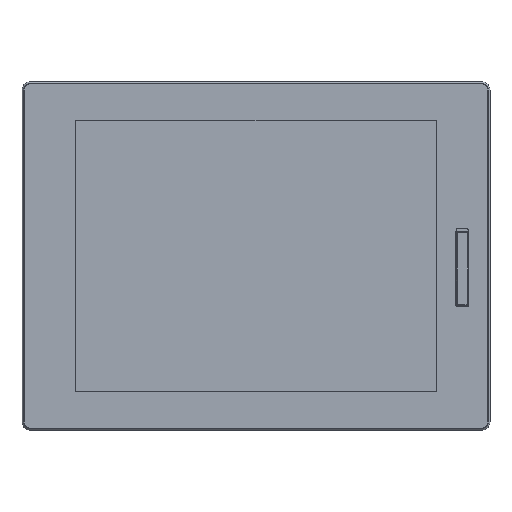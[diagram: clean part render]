
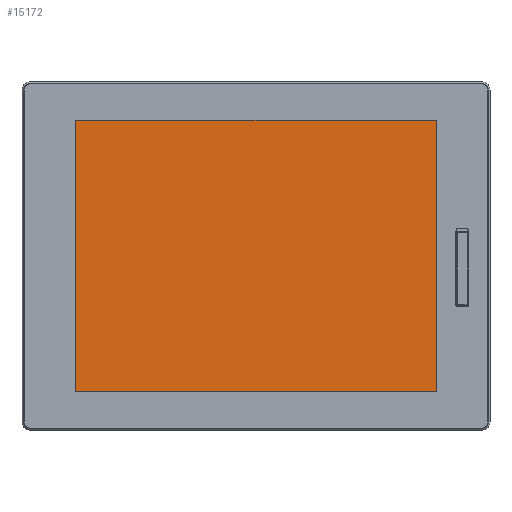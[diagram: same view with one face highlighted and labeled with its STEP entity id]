
A CAD part, top view. The second image highlights one B-rep face of the part: STEP entity #15172.
In plain terms, the highlighted planar face has unit normal (0, 0, 1).
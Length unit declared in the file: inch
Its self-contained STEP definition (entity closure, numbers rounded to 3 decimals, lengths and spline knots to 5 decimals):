
#5552=DIRECTION('',(1.,0.,0.));
#5553=VECTOR('',#5552,11.98819);
#5554=CARTESIAN_POINT('',(1.82087,10.36417,2.64677));
#5555=LINE('',#5554,#5553);
#5556=CARTESIAN_POINT('',(13.80906,10.3248,2.64677));
#5557=DIRECTION('',(0.,0.,-1.));
#5558=DIRECTION('',(0.,1.,0.));
#5559=AXIS2_PLACEMENT_3D('',#5556,#5557,#5558);
#5561=DIRECTION('',(0.,-1.,0.));
#5562=VECTOR('',#5561,8.99606);
#5563=CARTESIAN_POINT('',(13.84843,10.3248,2.64677));
#5564=LINE('',#5563,#5562);
#5565=CARTESIAN_POINT('',(13.80906,1.32874,2.64677));
#5566=DIRECTION('',(0.,0.,-1.));
#5567=DIRECTION('',(1.,0.,0.));
#5568=AXIS2_PLACEMENT_3D('',#5565,#5566,#5567);
#5570=DIRECTION('',(-1.,0.,0.));
#5571=VECTOR('',#5570,11.98819);
#5572=CARTESIAN_POINT('',(13.80906,1.28937,2.64677));
#5573=LINE('',#5572,#5571);
#5574=CARTESIAN_POINT('',(1.82087,1.32874,2.64677));
#5575=DIRECTION('',(0.,0.,-1.));
#5576=DIRECTION('',(0.,-1.,0.));
#5577=AXIS2_PLACEMENT_3D('',#5574,#5575,#5576);
#5579=DIRECTION('',(0.,1.,0.));
#5580=VECTOR('',#5579,8.99606);
#5581=CARTESIAN_POINT('',(1.7815,1.32874,2.64677));
#5582=LINE('',#5581,#5580);
#5583=CARTESIAN_POINT('',(1.82087,10.3248,2.64677));
#5584=DIRECTION('',(0.,0.,-1.));
#5585=DIRECTION('',(-1.,0.,0.));
#5586=AXIS2_PLACEMENT_3D('',#5583,#5584,#5585);
#7267=CARTESIAN_POINT('',(13.80906,10.36417,2.64677));
#7268=VERTEX_POINT('',#7267);
#7269=CARTESIAN_POINT('',(1.82087,10.36417,2.64677));
#7270=VERTEX_POINT('',#7269);
#7271=CARTESIAN_POINT('',(13.84843,10.3248,2.64677));
#7272=VERTEX_POINT('',#7271);
#7273=CARTESIAN_POINT('',(13.84843,1.32874,2.64677));
#7274=VERTEX_POINT('',#7273);
#7275=CARTESIAN_POINT('',(13.80906,1.28937,2.64677));
#7276=VERTEX_POINT('',#7275);
#7277=CARTESIAN_POINT('',(1.82087,1.28937,2.64677));
#7278=VERTEX_POINT('',#7277);
#7279=CARTESIAN_POINT('',(1.7815,1.32874,2.64677));
#7280=VERTEX_POINT('',#7279);
#7281=CARTESIAN_POINT('',(1.7815,10.3248,2.64677));
#7282=VERTEX_POINT('',#7281);
#15157=CARTESIAN_POINT('',(7.81496,5.82677,2.64677));
#15158=DIRECTION('',(0.,0.,1.));
#15159=DIRECTION('',(1.,0.,0.));
#15160=AXIS2_PLACEMENT_3D('',#15157,#15158,#15159);
#15161=PLANE('',#15160);
#15162=ORIENTED_EDGE('',*,*,#15053,.T.);
#15163=ORIENTED_EDGE('',*,*,#15068,.T.);
#15164=ORIENTED_EDGE('',*,*,#15082,.T.);
#15165=ORIENTED_EDGE('',*,*,#15096,.T.);
#15166=ORIENTED_EDGE('',*,*,#15110,.T.);
#15167=ORIENTED_EDGE('',*,*,#15124,.T.);
#15168=ORIENTED_EDGE('',*,*,#15138,.T.);
#15169=ORIENTED_EDGE('',*,*,#15151,.T.);
#15170=EDGE_LOOP('',(#15162,#15163,#15164,#15165,#15166,#15167,#15168,#15169));
#15171=FACE_OUTER_BOUND('',#15170,.F.);
#15172=ADVANCED_FACE('',(#15171),#15161,.T.);
#5560=CIRCLE('',#5559,0.03937);
#5569=CIRCLE('',#5568,0.03937);
#5578=CIRCLE('',#5577,0.03937);
#5587=CIRCLE('',#5586,0.03937);
#15053=EDGE_CURVE('',#7270,#7268,#5555,.T.);
#15068=EDGE_CURVE('',#7268,#7272,#5560,.T.);
#15082=EDGE_CURVE('',#7272,#7274,#5564,.T.);
#15096=EDGE_CURVE('',#7274,#7276,#5569,.T.);
#15110=EDGE_CURVE('',#7276,#7278,#5573,.T.);
#15124=EDGE_CURVE('',#7278,#7280,#5578,.T.);
#15138=EDGE_CURVE('',#7280,#7282,#5582,.T.);
#15151=EDGE_CURVE('',#7282,#7270,#5587,.T.);
